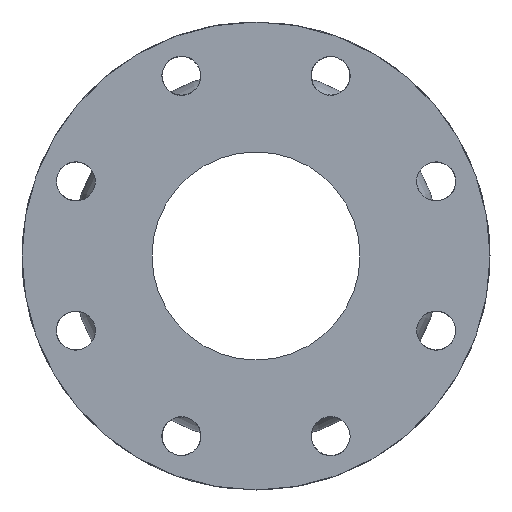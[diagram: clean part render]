
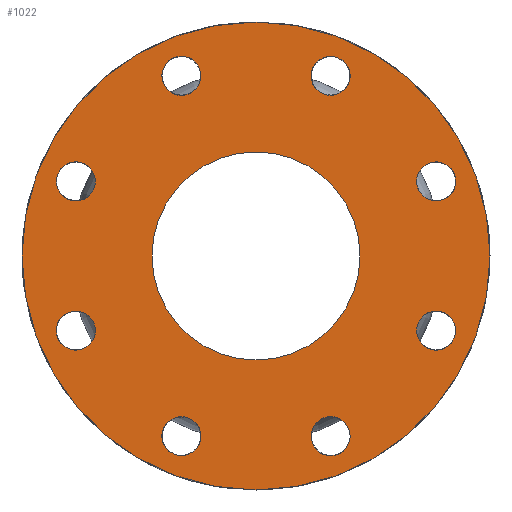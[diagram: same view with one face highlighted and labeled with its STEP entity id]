
A CAD part, left-side view. The second image highlights one B-rep face of the part: STEP entity #1022.
In plain terms, the highlighted planar face has unit normal (-1, 0, 0).
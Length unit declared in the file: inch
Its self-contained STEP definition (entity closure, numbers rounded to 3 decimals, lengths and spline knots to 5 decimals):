
#135=CARTESIAN_POINT('',(-3.,1.70023,-3.19938));
#136=VERTEX_POINT('',#135);
#137=CARTESIAN_POINT('',(-3.,1.43506,-3.46455));
#138=DIRECTION('',(1.0,0.0,0.0));
#139=DIRECTION('',(0.0,-0.707,-0.707));
#140=AXIS2_PLACEMENT_3D('',#137,#138,#139);
#141=CIRCLE('',#140,0.375);
#142=EDGE_CURVE('',#136,#136,#141,.T.);
#163=CARTESIAN_POINT('',(-3.,-1.06006,-3.46455));
#164=VERTEX_POINT('',#163);
#165=CARTESIAN_POINT('',(-3.,-1.43506,-3.46455));
#166=DIRECTION('',(1.0,0.0,0.0));
#167=DIRECTION('',(0.0,-1.0,0.0));
#168=AXIS2_PLACEMENT_3D('',#165,#166,#167);
#169=CIRCLE('',#168,0.375);
#170=EDGE_CURVE('',#164,#164,#169,.T.);
#191=CARTESIAN_POINT('',(-3.,-3.19938,-1.70023));
#192=VERTEX_POINT('',#191);
#193=CARTESIAN_POINT('',(-3.,-3.46455,-1.43506));
#194=DIRECTION('',(1.0,0.0,0.0));
#195=DIRECTION('',(0.0,-0.707,0.707));
#196=AXIS2_PLACEMENT_3D('',#193,#194,#195);
#197=CIRCLE('',#196,0.375);
#198=EDGE_CURVE('',#192,#192,#197,.T.);
#219=CARTESIAN_POINT('',(-3.,-3.46455,1.06006));
#220=VERTEX_POINT('',#219);
#221=CARTESIAN_POINT('',(-3.,-3.46455,1.43506));
#222=DIRECTION('',(1.0,0.0,0.0));
#223=DIRECTION('',(0.0,0.0,1.0));
#224=AXIS2_PLACEMENT_3D('',#221,#222,#223);
#225=CIRCLE('',#224,0.375);
#226=EDGE_CURVE('',#220,#220,#225,.T.);
#247=CARTESIAN_POINT('',(-3.,-1.70023,3.19938));
#248=VERTEX_POINT('',#247);
#249=CARTESIAN_POINT('',(-3.,-1.43506,3.46455));
#250=DIRECTION('',(1.0,0.0,0.0));
#251=DIRECTION('',(0.0,0.707,0.707));
#252=AXIS2_PLACEMENT_3D('',#249,#250,#251);
#253=CIRCLE('',#252,0.375);
#254=EDGE_CURVE('',#248,#248,#253,.T.);
#275=CARTESIAN_POINT('',(-3.,1.06006,3.46455));
#276=VERTEX_POINT('',#275);
#277=CARTESIAN_POINT('',(-3.,1.43506,3.46455));
#278=DIRECTION('',(1.0,0.0,0.0));
#279=DIRECTION('',(0.0,1.0,0.0));
#280=AXIS2_PLACEMENT_3D('',#277,#278,#279);
#281=CIRCLE('',#280,0.375);
#282=EDGE_CURVE('',#276,#276,#281,.T.);
#303=CARTESIAN_POINT('',(-3.,3.19938,1.70023));
#304=VERTEX_POINT('',#303);
#305=CARTESIAN_POINT('',(-3.,3.46455,1.43506));
#306=DIRECTION('',(1.0,0.0,0.0));
#307=DIRECTION('',(0.0,0.707,-0.707));
#308=AXIS2_PLACEMENT_3D('',#305,#306,#307);
#309=CIRCLE('',#308,0.375);
#310=EDGE_CURVE('',#304,#304,#309,.T.);
#555=CARTESIAN_POINT('',(-3.,3.46455,-1.06006));
#556=VERTEX_POINT('',#555);
#557=CARTESIAN_POINT('',(-3.,3.46455,-1.43506));
#558=DIRECTION('',(1.0,0.0,0.0));
#559=DIRECTION('',(0.0,0.0,-1.0));
#560=AXIS2_PLACEMENT_3D('',#557,#558,#559);
#561=CIRCLE('',#560,0.375);
#562=EDGE_CURVE('',#556,#556,#561,.T.);
#583=CARTESIAN_POINT('',(-3.,4.5,0.0));
#584=VERTEX_POINT('',#583);
#585=CARTESIAN_POINT('',(-3.,0.0,0.0));
#586=DIRECTION('',(1.0,0.0,0.0));
#587=DIRECTION('',(0.0,1.0,0.0));
#588=AXIS2_PLACEMENT_3D('',#585,#586,#587);
#589=CIRCLE('',#588,4.5);
#590=EDGE_CURVE('',#584,#584,#589,.T.);
#972=CARTESIAN_POINT('',(-3.0,2.,0.0));
#973=VERTEX_POINT('',#972);
#974=CARTESIAN_POINT('',(-3.0,0.0,0.0));
#975=DIRECTION('',(1.0,0.0,0.0));
#976=DIRECTION('',(0.0,1.0,0.0));
#977=AXIS2_PLACEMENT_3D('',#974,#975,#976);
#978=CIRCLE('',#977,2.);
#979=EDGE_CURVE('',#973,#973,#978,.T.);
#987=CARTESIAN_POINT('',(-3.,3.25,0.0));
#988=DIRECTION('',(-1.0,0.0,0.0));
#989=DIRECTION('',(0.0,0.0,1.0));
#990=AXIS2_PLACEMENT_3D('',#987,#988,#989);
#991=PLANE('',#990);
#992=ORIENTED_EDGE('',*,*,#590,.F.);
#993=EDGE_LOOP('',(#992));
#994=FACE_OUTER_BOUND('',#993,.T.);
#995=ORIENTED_EDGE('',*,*,#142,.T.);
#996=EDGE_LOOP('',(#995));
#997=FACE_BOUND('',#996,.T.);
#998=ORIENTED_EDGE('',*,*,#170,.T.);
#999=EDGE_LOOP('',(#998));
#1000=FACE_BOUND('',#999,.T.);
#1001=ORIENTED_EDGE('',*,*,#198,.T.);
#1002=EDGE_LOOP('',(#1001));
#1003=FACE_BOUND('',#1002,.T.);
#1004=ORIENTED_EDGE('',*,*,#226,.T.);
#1005=EDGE_LOOP('',(#1004));
#1006=FACE_BOUND('',#1005,.T.);
#1007=ORIENTED_EDGE('',*,*,#254,.T.);
#1008=EDGE_LOOP('',(#1007));
#1009=FACE_BOUND('',#1008,.T.);
#1010=ORIENTED_EDGE('',*,*,#282,.T.);
#1011=EDGE_LOOP('',(#1010));
#1012=FACE_BOUND('',#1011,.T.);
#1013=ORIENTED_EDGE('',*,*,#310,.T.);
#1014=EDGE_LOOP('',(#1013));
#1015=FACE_BOUND('',#1014,.T.);
#1016=ORIENTED_EDGE('',*,*,#562,.T.);
#1017=EDGE_LOOP('',(#1016));
#1018=FACE_BOUND('',#1017,.T.);
#1019=ORIENTED_EDGE('',*,*,#979,.T.);
#1020=EDGE_LOOP('',(#1019));
#1021=FACE_BOUND('',#1020,.T.);
#1022=ADVANCED_FACE('',(#994,#997,#1000,#1003,#1006,#1009,#1012,#1015,#1018,#1021),#991,.T.);
